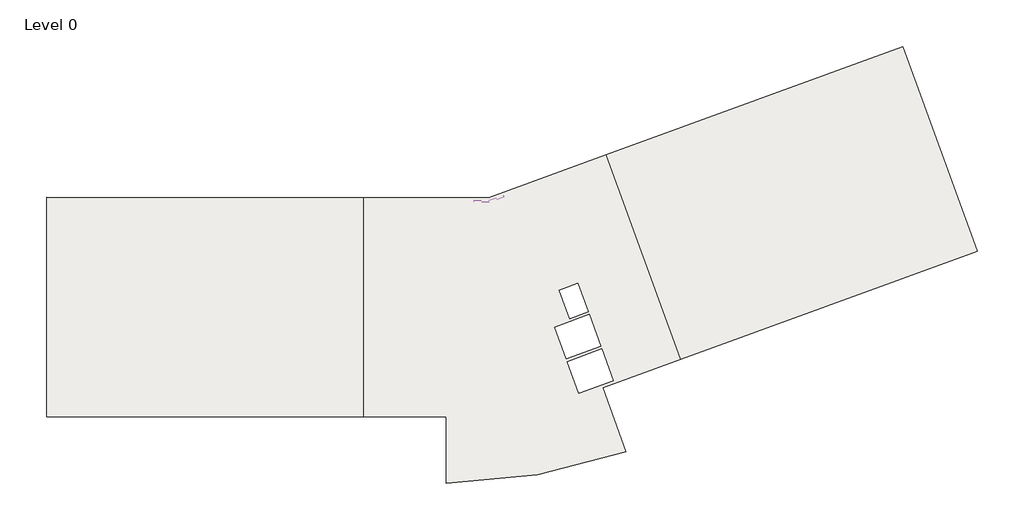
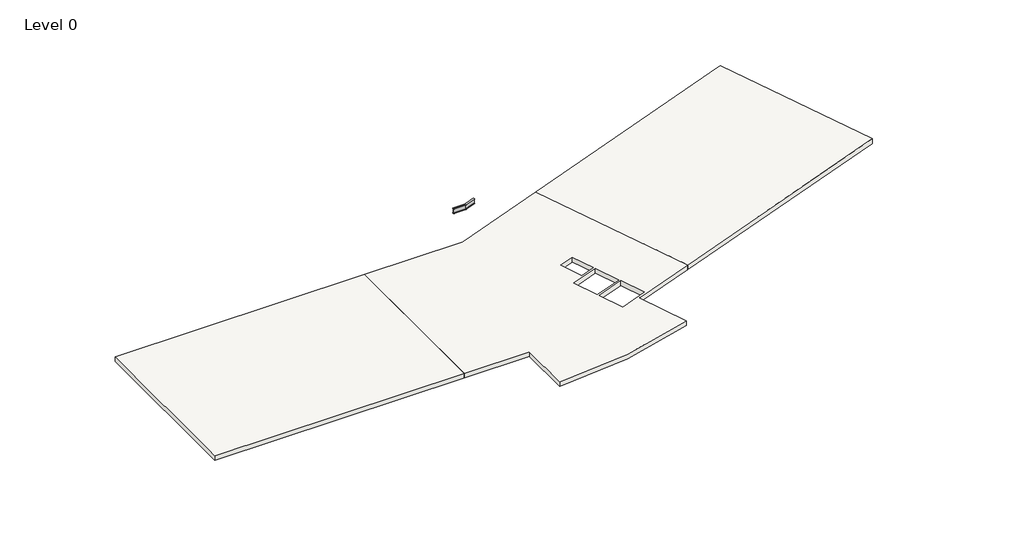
# One storey: 1 beam, 1 slab.
"""IFC4 building model written with IfcOpenShell, lengths in millimetres."""

from ifc_helpers import new_model, si_unit, point, frame, frame_2d, origin, place, context, project, spatial, polyline, circle_curve, trimmed, segment, composite_curve, outline, extrude, transform, mapped, element, save
from components import beam_3adde7b2

model = new_model("IFC4")

# Units and contexts
model_context = context("Model", 3, world=origin())
ifc_project = project(units=[si_unit("LENGTHUNIT", "METRE", prefix="MILLI")], contexts=[model_context])

# Site, building, storey
site = spatial("IfcSite", under=ifc_project)
building = spatial("IfcBuilding", under=site)
storey = spatial("IfcBuildingStorey", under=building, Name="Level 0", Elevation=0.0)

# Beam
placement = place(None, origin())
beam_shape = beam_3adde7b2(model_context)
element("IfcBeam", 1, ObjectType="Cranked Beam B1 : Cranked Beam B1", at=placement, inside=storey, context=model_context, shape_type="MappedRepresentation", body=[
    mapped(beam_shape, transform((0.0, 0.0, 0.0), x_axis=(1.0, 0.0, 0.0), y_axis=(0.0, 1.0, 0.0), z_axis=(0.0, 0.0, 1.0))),
])

# Slab
element("IfcSlab", 2, ObjectType="RC SLAB 450", at=placement, inside=storey, context=model_context, shape_type="SweptSolid", body=[
    extrude(outline(polyline([(39843.0335603, 18662.5527704), (60858.4270053, 26321.4287396), (66134.3988231, 11825.8153033), (45115.8241276, 4175.6797481), (39843.0335603, 18662.5527704)])), frame((0.0, 0.0, -455.0), z_axis=(0.0, 0.0, 1.0), x_axis=(1.0, 0.0, 0.0)), (0.0, 0.0, 1.0), 450.0),
    extrude(outline(polyline([(22662.2000022, 113.0000007), (233.0, 113.0000007), (233.0000025, 15642.4730131), (22662.2000023, 15633.1189992), (22662.2000022, 113.0000007)])), frame((0.0, 0.0, -455.0), z_axis=(0.0, 0.0, 1.0), x_axis=(1.0, 0.0, 0.0)), (0.0, 0.0, 1.0), 450.0),
    extrude(outline(composite_curve([segment(polyline([(39592.6147142, 2165.3959242), (41238.0521583, -2355.4062989)]), True, "CONTINUOUS"), segment(trimmed(circle_curve(frame_2d((28251.8766926, 34165.8732259)), 38761.3804108), [point((41238.0521583, -2355.4062989))], [point((28539.8766928, -4594.4372393))], False, "CARTESIAN"), True, "CONTINUOUS"), segment(polyline([(28539.8766928, -4594.4372393), (28539.8766928, 113.0000007), (22662.2000022, 113.0000007), (22662.2000023, 15633.1189992), (31520.3528963, 15629.4247396), (39843.0335603, 18662.5527704), (45115.8241276, 4175.6797481), (39592.6147142, 2165.3959242)]), True, "CONTINUOUS")], self_intersect=False), holes=[polyline([(37836.2376079, 9557.1573328), (36520.667939, 9078.3291322), (37254.4424652, 7062.3001903), (38570.0121342, 7541.1283909), (37836.2376079, 9557.1573328)]), polyline([(38637.9760474, 7354.3990738), (36194.7752334, 6465.1467012), (37016.0636927, 4208.6752042), (39459.2645067, 5097.9275768), (38637.9760474, 7354.3990738)]), polyline([(39527.6685354, 4909.9890526), (37084.4677213, 4020.73668), (37905.7561806, 1764.2651831), (40348.9569947, 2653.5175556), (39527.6685354, 4909.9890526)])]), frame((0.0, 0.0, -455.0), z_axis=(0.0, 0.0, 1.0), x_axis=(1.0, 0.0, 0.0)), (0.0, 0.0, 1.0), 450.0),
])

save(model, "model.ifc")
